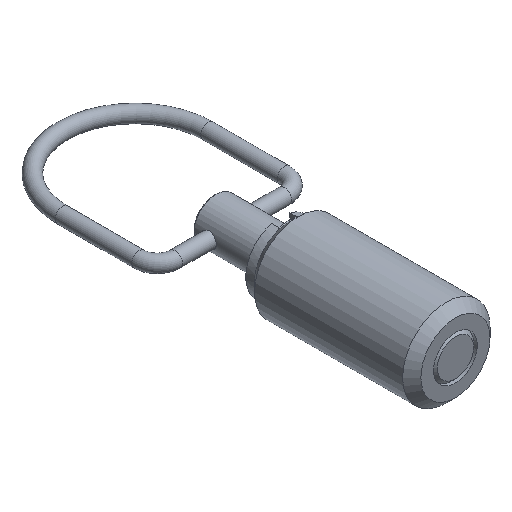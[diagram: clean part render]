
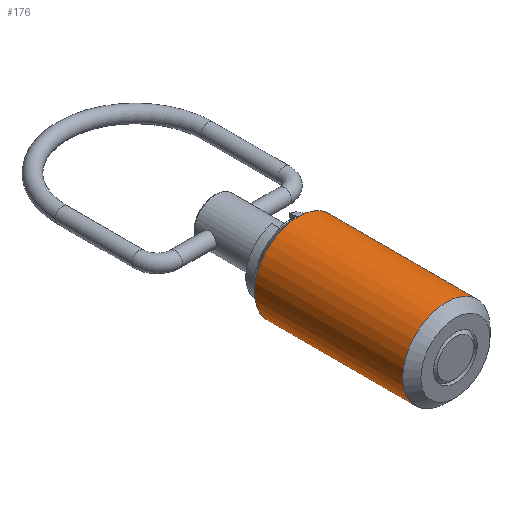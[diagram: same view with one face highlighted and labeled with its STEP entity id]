
A CAD part, isometric view. The second image highlights one B-rep face of the part: STEP entity #176.
In plain terms, the highlighted cylindrical face has radius 6 mm (diameter 12 mm), a full revolution.
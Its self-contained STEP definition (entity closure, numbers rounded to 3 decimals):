
#176 = ADVANCED_FACE( '', ( #227, #228 ), #229, .T. );
#227 = FACE_OUTER_BOUND( '', #336, .T. );
#228 = FACE_OUTER_BOUND( '', #337, .T. );
#229 = CYLINDRICAL_SURFACE( '', #338, 6. );
#336 = EDGE_LOOP( '', ( #480 ) );
#337 = EDGE_LOOP( '', ( #481 ) );
#338 = AXIS2_PLACEMENT_3D( '', #482, #483, #484 );
#480 = ORIENTED_EDGE( '', *, *, #691, .T. );
#481 = ORIENTED_EDGE( '', *, *, #692, .F. );
#482 = CARTESIAN_POINT( '', ( 0., 0., 0. ) );
#483 = DIRECTION( '', ( 0., 1., 0. ) );
#484 = DIRECTION( '', ( 0., 0., -1. ) );
#691 = EDGE_CURVE( '', #768, #768, #769, .T. );
#692 = EDGE_CURVE( '', #770, #770, #771, .T. );
#768 = VERTEX_POINT( '', #892 );
#769 = CIRCLE( '', #893, 6. );
#770 = VERTEX_POINT( '', #894 );
#771 = CIRCLE( '', #895, 6. );
#892 = CARTESIAN_POINT( '', ( 0., 21.6, -6. ) );
#893 = AXIS2_PLACEMENT_3D( '', #1074, #1075, #1076 );
#894 = CARTESIAN_POINT( '', ( 0., 1.25, -6. ) );
#895 = AXIS2_PLACEMENT_3D( '', #1077, #1078, #1079 );
#1074 = CARTESIAN_POINT( '', ( 0., 21.6, 0. ) );
#1075 = DIRECTION( '', ( 0., -1., 0. ) );
#1076 = DIRECTION( '', ( 0., 0., -1. ) );
#1077 = CARTESIAN_POINT( '', ( 0., 1.25, 0. ) );
#1078 = DIRECTION( '', ( 0., -1., 0. ) );
#1079 = DIRECTION( '', ( 0., 0., -1. ) );
